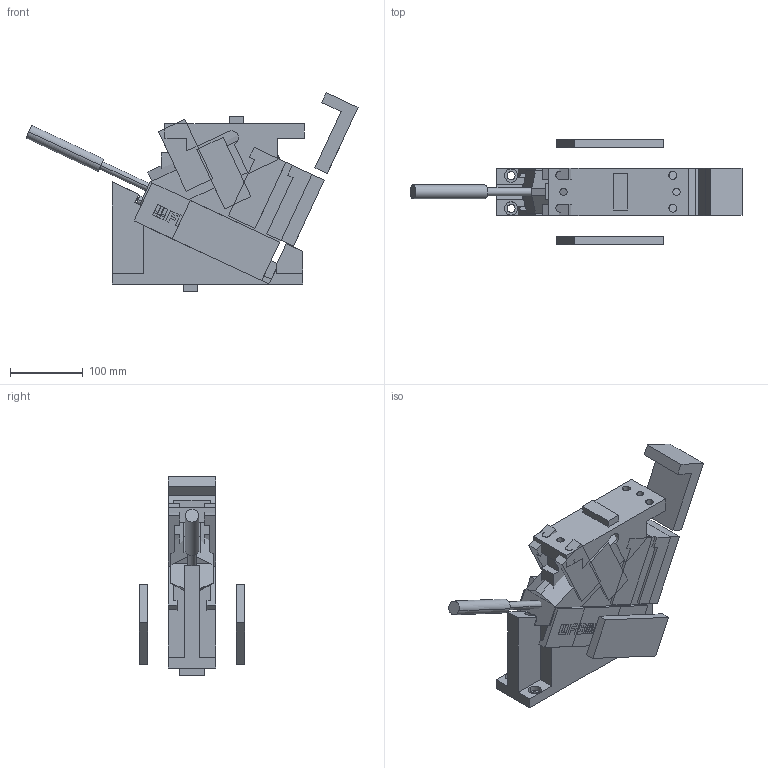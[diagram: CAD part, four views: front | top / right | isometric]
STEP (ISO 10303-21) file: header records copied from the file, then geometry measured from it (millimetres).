
FILE_DESCRIPTION(('CATIA V5 STEP','CAx-IF Rec.Pracs.--- Model Styling and Organization---1.5--- 2016-08-15','CAx-IF Rec.Pracs.---Supplemental Geometry---1.0---2011-11-01','CAx-IF Rec.Pracs.---Representation and Presentation of Product Manufacturing Information (PMI)---2.3---2014-10-13','CAx-IF Rec.Pracs.--- Composite Materials ---1.1---2010-07-15'),'2;1');
FILE_NAME('C:\Users\meyer\Desktop\DT_QI_2023\step\2016.15.006.25.3001.00_k.stp','2022-12-13T09:48:48+00:00',('${USER}'),('AUDI AG, ${GROUP}'),'CATIA Version 5-6 Release 2020 SP3 HF32','CATIA V5 STEP AP214 Edition 3 v2','none');
FILE_SCHEMA(('AUTOMOTIVE_DESIGN { 1 0 10303 214 3 1 1 1 }'));
Length unit declared in the file: millimetre
Products named in the file (1): 2016.15.006.25.3001.00_k
Bounding box: 455.41 x 145 x 272.62 mm (x, y, z)
Volume: 4252703.2 mm3; surface area: 464283.4 mm2
Topology: 9 solids, 9 shells, 344 faces, 1090 edges, 909 vertices
Faces by surface type: plane 281, cylinder 63
Entity records: 19767 total; most frequent: CARTESIAN_POINT 9636, ORIENTED_EDGE 2150, DIRECTION 1397, EDGE_CURVE 1075, VECTOR 867, LINE 867, VERTEX_POINT 820, EDGE_LOOP 441
